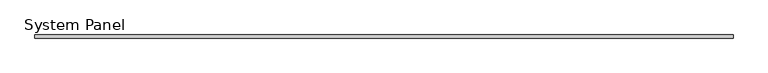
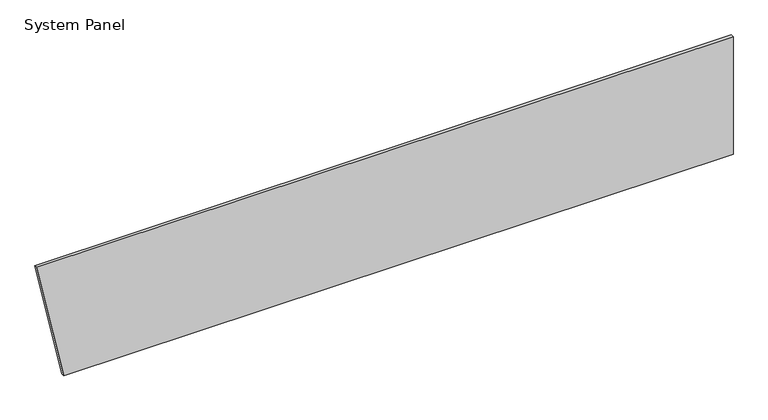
"""IFC4 building model written with IfcOpenShell, lengths in millimetres: plate geometry, System Panel : Purline 25mm Horizontal - Plain RHEA - PUR."""

from ifc_helpers import new_model, si_unit, frame, origin, place, context, project, spatial, polyline, outline, extrude, source, transform, mapped, element, save


def system_panel_c86d8e95(model_context):
    return source(origin(), model_context, "Body", "SweptSolid", [
        extrude(outline(polyline([(0.0, -2590.0), (0.0, 2807.3930515), (1000.0, 2807.3930515), (1000.0, -2807.3930515), (0.0, -2590.0)])), frame((0.0, -25.0, 0.0), z_axis=(0.0, 1.0, 0.0), x_axis=(0.0, 0.0, 1.0)), (0.0, 0.0, 1.0), 25.0),
    ])


if __name__ == "__main__":
    model = new_model("IFC4")
    model_context = context("Model", 3, world=origin())
    ifc_project = project(units=[si_unit("LENGTHUNIT", "METRE", prefix="MILLI")], contexts=[model_context])
    site = spatial("IfcSite", under=ifc_project)
    building = spatial("IfcBuilding", under=site)
    placement = place(None, origin())
    system_panel_shape = system_panel_c86d8e95(model_context)
    element("IfcPlate", 1, ObjectType="System Panel : Purline 25mm Horizontal - Plain RHEA - PUR", at=placement, inside=building, context=model_context, shape_type="MappedRepresentation", body=[
        mapped(system_panel_shape, transform((0.0, 0.0, 0.0), x_axis=(1.0, 0.0, 0.0), y_axis=(0.0, 1.0, 0.0), z_axis=(0.0, 0.0, 1.0))),
    ])
    save(model, "model.ifc")
